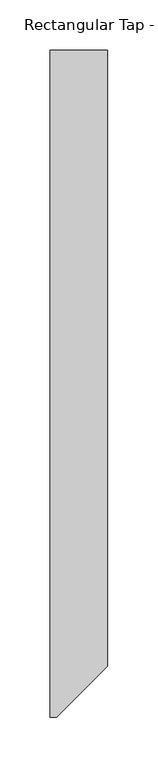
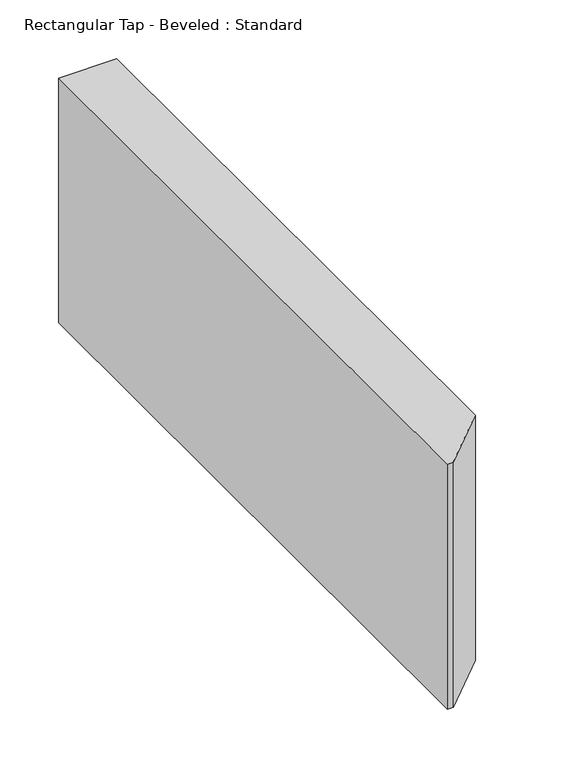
"""IFC4 building model written with IfcOpenShell, lengths in millimetres: duct fitting geometry, Rectangular Tap - Beveled : Standard."""

from ifc_helpers import new_model, si_unit, frame, origin, place, context, project, spatial, polyline, outline, extrude, source, transform, mapped, element, save


def rectangular_tap_beveled_standard_f95184d4(model_context):
    return source(origin(), model_context, "Body", "SweptSolid", [
        extrude(outline(polyline([(50.8, 304.8), (50.8, -304.8), (0.0, -355.6), (-6.096, -355.6), (-6.096, 304.8), (50.8, 304.8)])), frame((0.0, 0.0, -127.0), z_axis=(0.0, 0.0, 1.0), x_axis=(1.0, 0.0, 0.0)), (0.0, 0.0, 1.0), 254.0),
    ])


if __name__ == "__main__":
    model = new_model("IFC4")
    model_context = context("Model", 3, world=origin())
    ifc_project = project(units=[si_unit("LENGTHUNIT", "METRE", prefix="MILLI")], contexts=[model_context])
    site = spatial("IfcSite", under=ifc_project)
    building = spatial("IfcBuilding", under=site)
    placement = place(None, origin())
    rectangular_tap_beveled_standard_shape = rectangular_tap_beveled_standard_f95184d4(model_context)
    element("IfcDuctFitting", 1, ObjectType="Rectangular Tap - Beveled : Standard", at=placement, inside=building, context=model_context, shape_type="MappedRepresentation", body=[
        mapped(rectangular_tap_beveled_standard_shape, transform((0.0, 0.0, 0.0), x_axis=(1.0, 0.0, 0.0), y_axis=(0.0, 1.0, 0.0), z_axis=(0.0, 0.0, 1.0))),
    ])
    save(model, "model.ifc")
